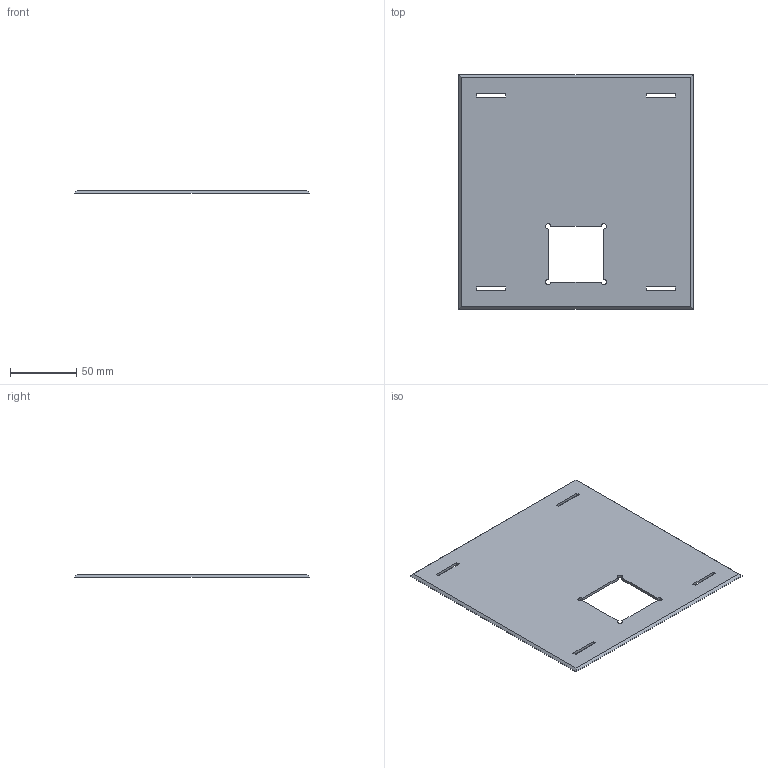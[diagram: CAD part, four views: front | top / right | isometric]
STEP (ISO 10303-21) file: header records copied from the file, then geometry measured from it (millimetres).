
FILE_DESCRIPTION (( 'STEP AP214' ), '1' );
FILE_NAME ('SC54.STEP', '2016-02-27T09:42:22', ( '' ), ( '' ), 'SwSTEP 2.0', 'SolidWorks 2012', '' );
FILE_SCHEMA (( 'AUTOMOTIVE_DESIGN' ));
Length unit declared in the file: millimetre
Products named in the file (1): SC54
Bounding box: 177 x 177 x 2 mm (x, y, z)
Volume: 57493 mm3; surface area: 60066.1 mm2
Topology: 1 solids, 1 shells, 36 faces, 98 edges, 64 vertices
Faces by surface type: plane 30, cylinder 6
Entity records: 1176 total; most frequent: CARTESIAN_POINT 199, ORIENTED_EDGE 196, DIRECTION 184, EDGE_CURVE 98, VECTOR 86, LINE 86, VERTEX_POINT 64, AXIS2_PLACEMENT_3D 49
